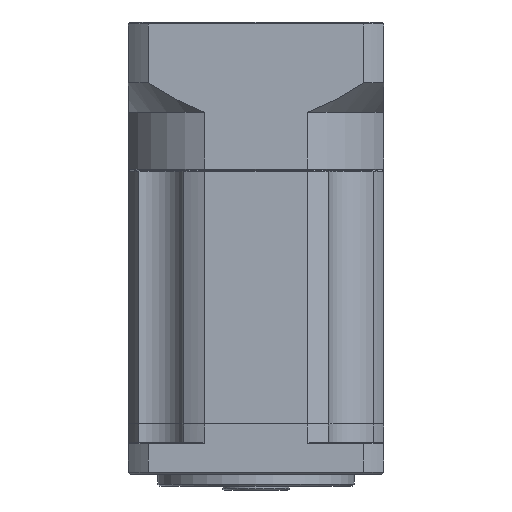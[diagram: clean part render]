
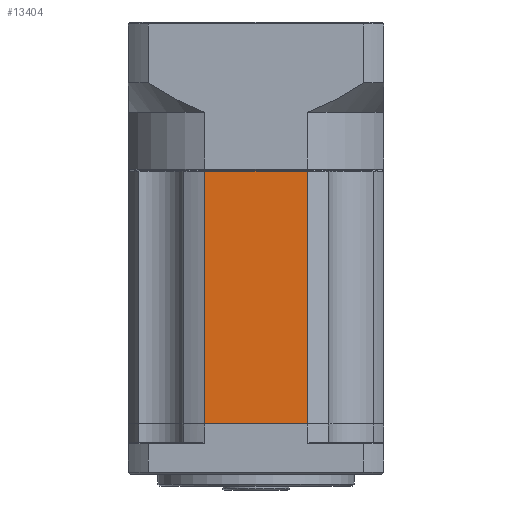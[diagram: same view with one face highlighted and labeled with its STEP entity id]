
A CAD part, front view. The second image highlights one B-rep face of the part: STEP entity #13404.
In plain terms, the highlighted planar face has unit normal (0, -1, 0).
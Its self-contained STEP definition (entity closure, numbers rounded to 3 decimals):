
#103 = VERTEX_POINT ( 'NONE', #30232 ) ;
#6134 = DIRECTION ( 'NONE',  ( 0., 0., 1. ) ) ;
#8492 = EDGE_LOOP ( 'NONE', ( #111728, #91560, #25253, #33808 ) ) ;
#13404 = ADVANCED_FACE ( 'NONE', ( #47678 ), #51292, .F. ) ;
#16443 = DIRECTION ( 'NONE',  ( 0., 1., 0. ) ) ;
#21203 = EDGE_CURVE ( 'NONE', #103, #72060, #75851, .T. ) ;
#25253 = ORIENTED_EDGE ( 'NONE', *, *, #54779, .T. ) ;
#25788 = CARTESIAN_POINT ( 'NONE',  ( -54.376, 4.23, -83.245 ) ) ;
#30232 = CARTESIAN_POINT ( 'NONE',  ( -28.395, 4.23, -19.145 ) ) ;
#33808 = ORIENTED_EDGE ( 'NONE', *, *, #116810, .T. ) ;
#41130 = LINE ( 'NONE', #104587, #83563 ) ;
#47511 = CARTESIAN_POINT ( 'NONE',  ( -54.376, 4.23, -19.145 ) ) ;
#47678 = FACE_OUTER_BOUND ( 'NONE', #8492, .T. ) ;
#48440 = CARTESIAN_POINT ( 'NONE',  ( -28.395, 4.23, -83.245 ) ) ;
#51292 = PLANE ( 'NONE',  #82423 ) ;
#51771 = VECTOR ( 'NONE', #73230, 1000. ) ;
#54779 = EDGE_CURVE ( 'NONE', #72060, #65270, #83700, .T. ) ;
#55406 = CARTESIAN_POINT ( 'NONE',  ( -54.376, 4.23, -19.145 ) ) ;
#57395 = VERTEX_POINT ( 'NONE', #84682 ) ;
#59315 = EDGE_CURVE ( 'NONE', #103, #57395, #41130, .T. ) ;
#65270 = VERTEX_POINT ( 'NONE', #25788 ) ;
#72060 = VERTEX_POINT ( 'NONE', #47511 ) ;
#73230 = DIRECTION ( 'NONE',  ( -1., 0., 0. ) ) ;
#75718 = DIRECTION ( 'NONE',  ( 1., 0., 0. ) ) ;
#75851 = LINE ( 'NONE', #55406, #51771 ) ;
#81165 = CARTESIAN_POINT ( 'NONE',  ( -54.376, 4.23, -18.945 ) ) ;
#82276 = VECTOR ( 'NONE', #116460, 1000. ) ;
#82423 = AXIS2_PLACEMENT_3D ( 'NONE', #114634, #16443, #6134 ) ;
#83563 = VECTOR ( 'NONE', #87145, 1000. ) ;
#83700 = LINE ( 'NONE', #81165, #82276 ) ;
#84682 = CARTESIAN_POINT ( 'NONE',  ( -28.395, 4.23, -83.245 ) ) ;
#87145 = DIRECTION ( 'NONE',  ( 0., 0., -1. ) ) ;
#91560 = ORIENTED_EDGE ( 'NONE', *, *, #21203, .T. ) ;
#93508 = LINE ( 'NONE', #48440, #107759 ) ;
#104587 = CARTESIAN_POINT ( 'NONE',  ( -28.395, 4.23, -18.945 ) ) ;
#107759 = VECTOR ( 'NONE', #75718, 1000. ) ;
#111728 = ORIENTED_EDGE ( 'NONE', *, *, #59315, .F. ) ;
#114634 = CARTESIAN_POINT ( 'NONE',  ( -28.395, 4.23, -18.945 ) ) ;
#116460 = DIRECTION ( 'NONE',  ( 0., 0., -1. ) ) ;
#116810 = EDGE_CURVE ( 'NONE', #65270, #57395, #93508, .T. ) ;
